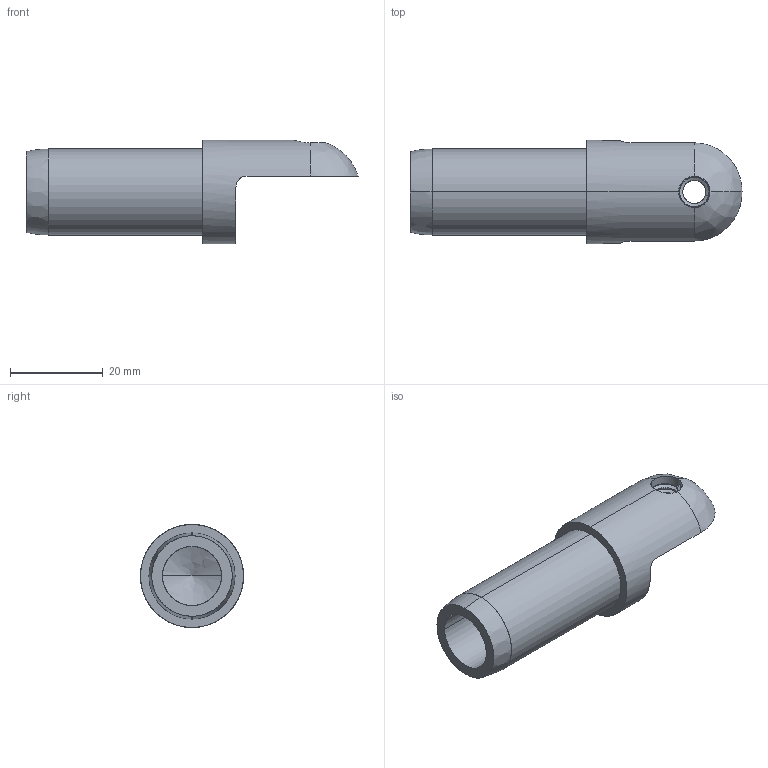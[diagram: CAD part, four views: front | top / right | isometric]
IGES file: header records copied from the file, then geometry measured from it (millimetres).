
Start section: SolidWorks IGES file using analytic representation for surfaces
Global section: file name: \\SERVER3\Design\_New Design Drive Folder List\_Design Vault\AAI\Modular Round Tube Connectors\Solidworks Models\STP Files\12202013\0.750 Inch Modular Connectors\DRP-002-0528-00.IGS; native system: SolidWorks 2013; preprocessor: SolidWorks 2013; author: tbraun; date: 131220.123447; units: inch
Bounding box: 71.54 x 22.23 x 22.23 mm (x, y, z)
Surface area: 6578.8 mm2 (no closed solid volume)
Topology: 0 solids, 0 shells, 29 faces, 428 edges, 426 vertices
Faces by surface type: bspline 18, revolution 11
